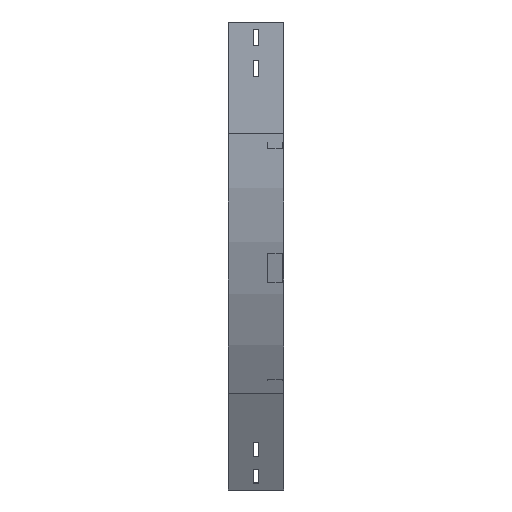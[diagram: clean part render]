
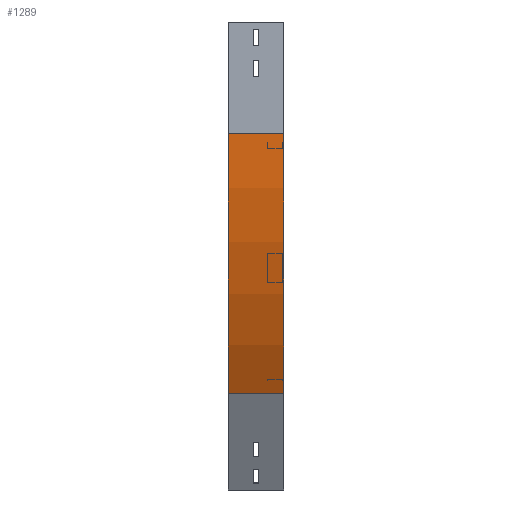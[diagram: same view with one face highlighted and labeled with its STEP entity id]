
A CAD part, left-side view. The second image highlights one B-rep face of the part: STEP entity #1289.
In plain terms, the highlighted cylindrical face has radius 700 mm (diameter 1400 mm), a partial arc.
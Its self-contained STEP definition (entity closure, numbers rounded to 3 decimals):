
#196 = CYLINDRICAL_SURFACE ( 'NONE', #2781, 700. ) ;
#221 = DIRECTION ( 'NONE',  ( -1., 0., 0. ) ) ;
#434 = CARTESIAN_POINT ( 'NONE',  ( 0., 0., -150. ) ) ;
#446 = VERTEX_POINT ( 'NONE', #1181 ) ;
#524 = DIRECTION ( 'NONE',  ( 0., -1., 0. ) ) ;
#597 = VECTOR ( 'NONE', #2955, 1000. ) ;
#827 = EDGE_CURVE ( 'NONE', #1980, #2522, #898, .T. ) ;
#869 = EDGE_CURVE ( 'NONE', #2400, #2522, #2939, .T. ) ;
#898 = CIRCLE ( 'NONE', #1971, 700. ) ;
#933 = EDGE_CURVE ( 'NONE', #446, #2400, #2401, .T. ) ;
#1131 = DIRECTION ( 'NONE',  ( 0., 0., -1. ) ) ;
#1135 = LINE ( 'NONE', #3207, #597 ) ;
#1181 = CARTESIAN_POINT ( 'NONE',  ( 0., 75., -150. ) ) ;
#1289 = ADVANCED_FACE ( 'NONE', ( #2341 ), #196, .T. ) ;
#1391 = CARTESIAN_POINT ( 'NONE',  ( 93.782, 0., -500. ) ) ;
#1434 = ORIENTED_EDGE ( 'NONE', *, *, #827, .F. ) ;
#1633 = CARTESIAN_POINT ( 'NONE',  ( 700., 0., -150. ) ) ;
#1882 = DIRECTION ( 'NONE',  ( 0., -1., 0. ) ) ;
#1971 = AXIS2_PLACEMENT_3D ( 'NONE', #1633, #1882, #3074 ) ;
#1980 = VERTEX_POINT ( 'NONE', #434 ) ;
#2220 = VECTOR ( 'NONE', #3807, 1000. ) ;
#2222 = ORIENTED_EDGE ( 'NONE', *, *, #3721, .F. ) ;
#2284 = AXIS2_PLACEMENT_3D ( 'NONE', #2897, #2960, #221 ) ;
#2341 = FACE_OUTER_BOUND ( 'NONE', #3489, .T. ) ;
#2400 = VERTEX_POINT ( 'NONE', #3746 ) ;
#2401 = CIRCLE ( 'NONE', #2284, 700. ) ;
#2522 = VERTEX_POINT ( 'NONE', #2620 ) ;
#2620 = CARTESIAN_POINT ( 'NONE',  ( 93.782, 0., -500. ) ) ;
#2781 = AXIS2_PLACEMENT_3D ( 'NONE', #3204, #524, #1131 ) ;
#2897 = CARTESIAN_POINT ( 'NONE',  ( 700., 75., -150. ) ) ;
#2939 = LINE ( 'NONE', #1391, #2220 ) ;
#2955 = DIRECTION ( 'NONE',  ( 0., -1., 0. ) ) ;
#2960 = DIRECTION ( 'NONE',  ( 0., -1., 0. ) ) ;
#2992 = ORIENTED_EDGE ( 'NONE', *, *, #869, .T. ) ;
#3074 = DIRECTION ( 'NONE',  ( -1., 0., 0. ) ) ;
#3156 = ORIENTED_EDGE ( 'NONE', *, *, #933, .T. ) ;
#3204 = CARTESIAN_POINT ( 'NONE',  ( 700., 0., -150. ) ) ;
#3207 = CARTESIAN_POINT ( 'NONE',  ( 0., 0., -150. ) ) ;
#3489 = EDGE_LOOP ( 'NONE', ( #1434, #2222, #3156, #2992 ) ) ;
#3721 = EDGE_CURVE ( 'NONE', #446, #1980, #1135, .T. ) ;
#3746 = CARTESIAN_POINT ( 'NONE',  ( 93.782, 75., -500. ) ) ;
#3807 = DIRECTION ( 'NONE',  ( 0., -1., 0. ) ) ;
